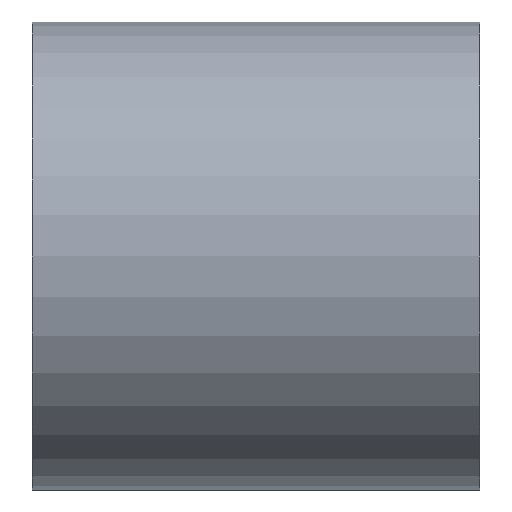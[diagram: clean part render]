
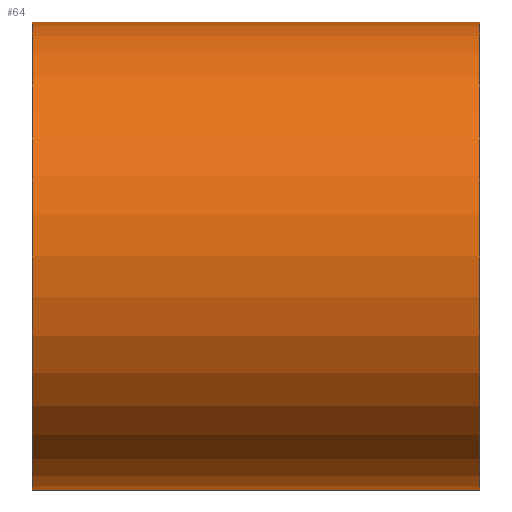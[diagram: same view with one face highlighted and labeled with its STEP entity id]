
A CAD part, front view. The second image highlights one B-rep face of the part: STEP entity #64.
In plain terms, the highlighted cylindrical face has radius 84.15 mm (diameter 168.3 mm), a full revolution.
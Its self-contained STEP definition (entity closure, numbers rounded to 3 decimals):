
#21=FACE_OUTER_BOUND('',#27,.T.);
#27=EDGE_LOOP('',(#54,#55,#56,#57));
#31=LINE('',#134,#33);
#33=VECTOR('',#116,84.15);
#36=CIRCLE('',#94,84.15);
#37=CIRCLE('',#96,84.15);
#40=VERTEX_POINT('',#129);
#41=VERTEX_POINT('',#132);
#45=EDGE_CURVE('',#40,#40,#36,.T.);
#46=EDGE_CURVE('',#41,#41,#37,.T.);
#47=EDGE_CURVE('',#41,#40,#31,.T.);
#54=ORIENTED_EDGE('',*,*,#46,.F.);
#55=ORIENTED_EDGE('',*,*,#47,.T.);
#56=ORIENTED_EDGE('',*,*,#45,.T.);
#57=ORIENTED_EDGE('',*,*,#47,.F.);
#61=CYLINDRICAL_SURFACE('',#95,84.15);
#64=ADVANCED_FACE('',(#21),#61,.T.);
#94=AXIS2_PLACEMENT_3D('',#130,#110,#111);
#95=AXIS2_PLACEMENT_3D('',#131,#112,#113);
#96=AXIS2_PLACEMENT_3D('',#133,#114,#115);
#110=DIRECTION('center_axis',(-1.,0.,0.));
#111=DIRECTION('ref_axis',(0.,0.,1.));
#112=DIRECTION('center_axis',(-1.,0.,0.));
#113=DIRECTION('ref_axis',(0.,1.,0.));
#114=DIRECTION('center_axis',(-1.,0.,0.));
#115=DIRECTION('ref_axis',(0.,0.,1.));
#116=DIRECTION('',(1.,0.,0.));
#129=CARTESIAN_POINT('',(161.,-84.15,0.));
#130=CARTESIAN_POINT('Origin',(161.,0.,0.));
#131=CARTESIAN_POINT('Origin',(80.5,0.,0.));
#132=CARTESIAN_POINT('',(0.,-84.15,0.));
#133=CARTESIAN_POINT('Origin',(0.,0.,
0.));
#134=CARTESIAN_POINT('',(80.5,-84.15,0.));
